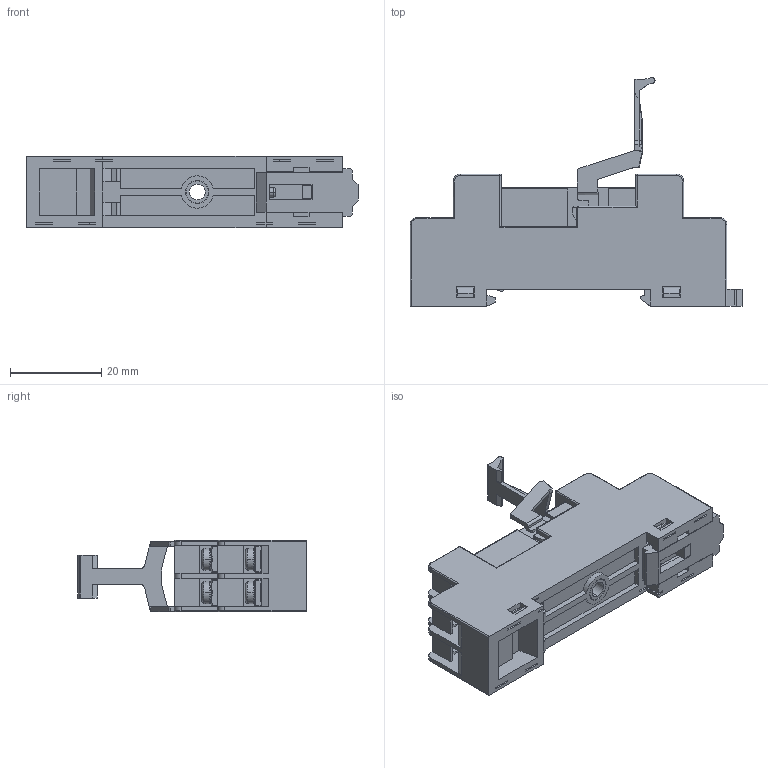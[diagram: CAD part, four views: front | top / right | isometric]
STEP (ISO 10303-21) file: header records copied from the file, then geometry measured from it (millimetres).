
FILE_DESCRIPTION (( 'STEP AP203' ), '1' );
FILE_NAME ('SRT08-E 俋倛.STEP', '2023-01-12T01:47:54', ( '' ), ( '' ), 'SwSTEP 2.0', 'SolidWorks 2018', '' );
FILE_SCHEMA (( 'CONFIG_CONTROL_DESIGN' ));
Products named in the file (1): SRT08-E 俋倛
Bounding box: 72.9 x 50.2 x 15.8 mm (x, y, z)
Volume: 20680.3 mm3; surface area: 12646.9 mm2
Topology: 1 solids, 1 shells, 1900 faces, 5180 edges, 3311 vertices
Faces by surface type: plane 1139, cylinder 468, cone 148, torus 128, sphere 14, bspline 3
Entity records: 62876 total; most frequent: CARTESIAN_POINT 16231, ORIENTED_EDGE 10312, DIRECTION 9005, EDGE_CURVE 5156, VERTEX_POINT 3311, AXIS2_PLACEMENT_3D 3015, VECTOR 2975, LINE 2975
